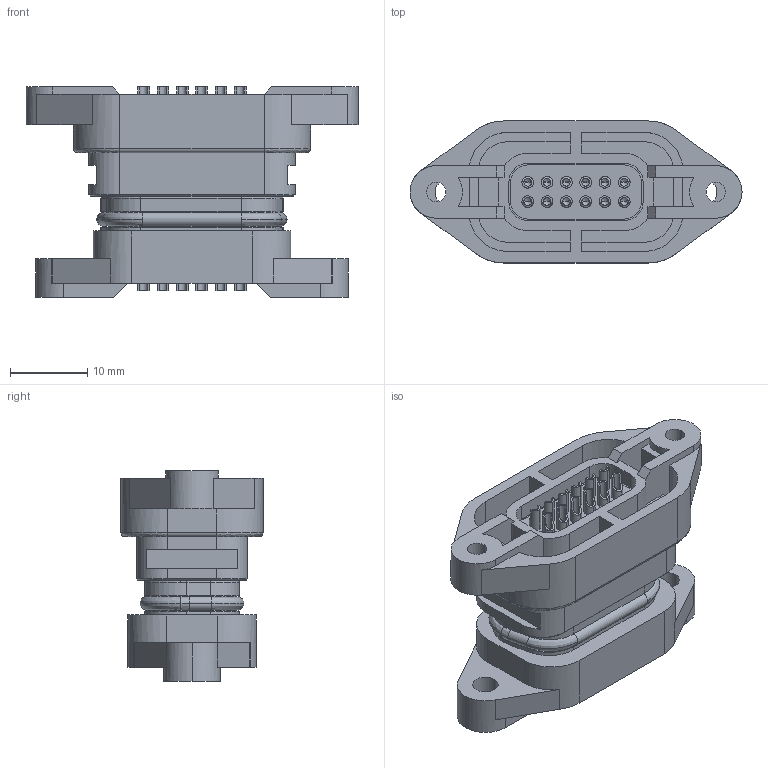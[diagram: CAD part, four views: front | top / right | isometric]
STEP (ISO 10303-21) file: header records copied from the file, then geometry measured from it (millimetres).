
FILE_DESCRIPTION((''),'2;1');
FILE_NAME('12PIN-_-20200515_ASM','2022-05-25T10:50:46',('Alfred You'),(''),'CREO PARAMETRIC BY PTC INC, 2018050','CREO PARAMETRIC BY PTC INC, 2018050','');
FILE_SCHEMA(('CONFIG_CONTROL_DESIGN'));
Length unit declared in the file: millimetre
Products named in the file (14): POGO_PIN-200512_1; ORING-MALE-200512_1; GLUE-MALE-200512_1; HOUSING-MALE-200512_1; POGO_PIN-__PIN-200512_1; ____-____-200512_1_ASM; PIN-200512; GLUE-FEMALE-200512; RING-200512_1; HOUSING-FEMALE-200512; ____-200512_ASM; 12PIN-____-20200515_ASM; _12PIN-__-20200515; 12PIN-_-20200515_ASM
Assembly tree (34 placements, depth 4):
  12PIN-_-20200515_ASM
    12PIN-____-20200515_ASM
      ____-____-200512_1_ASM
        POGO_PIN-200512_1  x10
        ORING-MALE-200512_1
        GLUE-MALE-200512_1
        HOUSING-MALE-200512_1
        POGO_PIN-__PIN-200512_1  x2
      ____-200512_ASM
        PIN-200512  x12
        GLUE-FEMALE-200512
        RING-200512_1
        HOUSING-FEMALE-200512
    _12PIN-__-20200515
Bounding box: 43 x 18.4 x 27.3 mm (x, y, z)
Volume: 9022.5 mm3; surface area: 12062.7 mm2
Topology: 30 solids, 30 shells, 1767 faces, 4331 edges, 2698 vertices
Faces by surface type: cylinder 830, plane 518, cone 360, torus 24, bspline 18, sphere 12, extrusion 5
Entity records: 25374 total; most frequent: CARTESIAN_POINT 4895, DIRECTION 4525, ORIENTED_EDGE 4054, EDGE_CURVE 2027, AXIS2_PLACEMENT_3D 1688, VERTEX_POINT 1309, VECTOR 1149, LINE 1144
